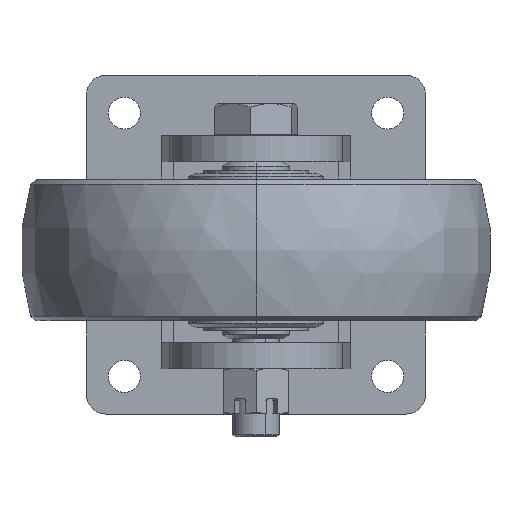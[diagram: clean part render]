
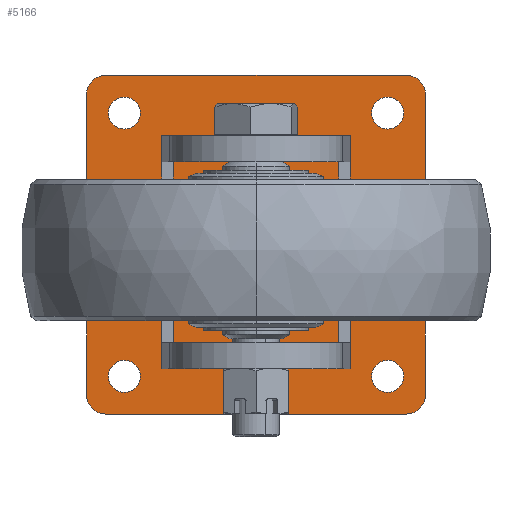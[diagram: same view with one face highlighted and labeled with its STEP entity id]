
A CAD part, front view. The second image highlights one B-rep face of the part: STEP entity #5166.
In plain terms, the highlighted planar face has unit normal (0, -1, 0).
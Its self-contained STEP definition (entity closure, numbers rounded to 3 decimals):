
#7 = CIRCLE ( 'NONE', #10394, 8.5 ) ;
#21 = ORIENTED_EDGE ( 'NONE', *, *, #3059, .F. ) ;
#60 = AXIS2_PLACEMENT_3D ( 'NONE', #9132, #3568, #4265 ) ;
#179 = ORIENTED_EDGE ( 'NONE', *, *, #2846, .T. ) ;
#214 = CARTESIAN_POINT ( 'NONE',  ( -83.735, 3.735, -90. ) ) ;
#273 = DIRECTION ( 'NONE',  ( 0., 1., 0. ) ) ;
#353 = DIRECTION ( 'NONE',  ( 0., 0., -1. ) ) ;
#501 = CARTESIAN_POINT ( 'NONE',  ( -83.735, 3.735, 90. ) ) ;
#569 = VERTEX_POINT ( 'NONE', #3986 ) ;
#652 = CIRCLE ( 'NONE', #2166, 8.5 ) ;
#686 = EDGE_CURVE ( 'NONE', #3217, #8067, #8387, .T. ) ;
#708 = EDGE_CURVE ( 'NONE', #3717, #4738, #8011, .T. ) ;
#725 = FACE_OUTER_BOUND ( 'NONE', #2631, .T. ) ;
#742 = VERTEX_POINT ( 'NONE', #6056 ) ;
#853 = CIRCLE ( 'NONE', #4653, 8.5 ) ;
#927 = DIRECTION ( 'NONE',  ( 0., -1., 0. ) ) ;
#953 = ORIENTED_EDGE ( 'NONE', *, *, #2260, .T. ) ;
#1027 = VERTEX_POINT ( 'NONE', #9072 ) ;
#1172 = CARTESIAN_POINT ( 'NONE',  ( -73.735, 3.735, -80. ) ) ;
#1339 = EDGE_LOOP ( 'NONE', ( #5240, #179 ) ) ;
#1370 = CARTESIAN_POINT ( 'NONE',  ( -73.735, 3.735, 90. ) ) ;
#1483 = ORIENTED_EDGE ( 'NONE', *, *, #686, .T. ) ;
#1666 = CARTESIAN_POINT ( 'NONE',  ( -63.735, 3.735, 70. ) ) ;
#1886 = EDGE_CURVE ( 'NONE', #3717, #7937, #8359, .T. ) ;
#1916 = DIRECTION ( 'NONE',  ( 0., 1., 0. ) ) ;
#1951 = CARTESIAN_POINT ( 'NONE',  ( 76.265, 3.735, -70. ) ) ;
#1958 = CARTESIAN_POINT ( 'NONE',  ( 76.265, 3.735, 70. ) ) ;
#2049 = ORIENTED_EDGE ( 'NONE', *, *, #708, .F. ) ;
#2166 = AXIS2_PLACEMENT_3D ( 'NONE', #3052, #3811, #9499 ) ;
#2260 = EDGE_CURVE ( 'NONE', #5914, #9068, #652, .T. ) ;
#2351 = CARTESIAN_POINT ( 'NONE',  ( -63.735, 3.735, 78.5 ) ) ;
#2380 = CIRCLE ( 'NONE', #6913, 8.5 ) ;
#2505 = EDGE_CURVE ( 'NONE', #8838, #7651, #4962, .T. ) ;
#2631 = EDGE_LOOP ( 'NONE', ( #7366, #9651, #6694, #5287, #5378, #2049, #8913, #21 ) ) ;
#2640 = CIRCLE ( 'NONE', #4073, 8.5 ) ;
#2690 = DIRECTION ( 'NONE',  ( 1., 0., 0. ) ) ;
#2720 = VERTEX_POINT ( 'NONE', #5730 ) ;
#2740 = CIRCLE ( 'NONE', #4211, 8.5 ) ;
#2846 = EDGE_CURVE ( 'NONE', #9189, #742, #2640, .T. ) ;
#3052 = CARTESIAN_POINT ( 'NONE',  ( 76.265, 3.735, -70. ) ) ;
#3059 = EDGE_CURVE ( 'NONE', #9408, #7937, #5965, .T. ) ;
#3060 = VECTOR ( 'NONE', #2690, 1000. ) ;
#3168 = CARTESIAN_POINT ( 'NONE',  ( 96.265, 3.735, -80. ) ) ;
#3181 = LINE ( 'NONE', #5291, #4326 ) ;
#3217 = VERTEX_POINT ( 'NONE', #4620 ) ;
#3361 = DIRECTION ( 'NONE',  ( 0., 1., 0. ) ) ;
#3488 = DIRECTION ( 'NONE',  ( 0., 0., -1. ) ) ;
#3530 = DIRECTION ( 'NONE',  ( 0., 0., -1. ) ) ;
#3568 = DIRECTION ( 'NONE',  ( 0., 1., 0. ) ) ;
#3577 = CARTESIAN_POINT ( 'NONE',  ( 96.265, 3.735, 90. ) ) ;
#3600 = DIRECTION ( 'NONE',  ( 0., 1., 0. ) ) ;
#3637 = AXIS2_PLACEMENT_3D ( 'NONE', #1958, #3600, #353 ) ;
#3688 = AXIS2_PLACEMENT_3D ( 'NONE', #1172, #7664, #6859 ) ;
#3717 = VERTEX_POINT ( 'NONE', #3787 ) ;
#3787 = CARTESIAN_POINT ( 'NONE',  ( 86.265, 3.735, 90. ) ) ;
#3811 = DIRECTION ( 'NONE',  ( 0., 1., 0. ) ) ;
#3882 = DIRECTION ( 'NONE',  ( 0., 0., -1. ) ) ;
#3888 = CIRCLE ( 'NONE', #5604, 8.5 ) ;
#3986 = CARTESIAN_POINT ( 'NONE',  ( -83.735, 3.735, -80. ) ) ;
#3989 = DIRECTION ( 'NONE',  ( 0., 0., -1. ) ) ;
#4037 = CARTESIAN_POINT ( 'NONE',  ( 76.265, 3.735, -78.5 ) ) ;
#4073 = AXIS2_PLACEMENT_3D ( 'NONE', #8251, #3361, #6690 ) ;
#4081 = EDGE_CURVE ( 'NONE', #5606, #1027, #2740, .T. ) ;
#4211 = AXIS2_PLACEMENT_3D ( 'NONE', #1666, #8868, #3989 ) ;
#4265 = DIRECTION ( 'NONE',  ( 0., 0., -1. ) ) ;
#4326 = VECTOR ( 'NONE', #5218, 1000. ) ;
#4509 = ORIENTED_EDGE ( 'NONE', *, *, #4081, .T. ) ;
#4516 = EDGE_CURVE ( 'NONE', #8067, #3217, #3888, .T. ) ;
#4620 = CARTESIAN_POINT ( 'NONE',  ( 76.265, 3.735, 61.5 ) ) ;
#4653 = AXIS2_PLACEMENT_3D ( 'NONE', #1951, #8519, #10167 ) ;
#4685 = CARTESIAN_POINT ( 'NONE',  ( -63.735, 3.735, 70. ) ) ;
#4732 = DIRECTION ( 'NONE',  ( 0., 0., -1. ) ) ;
#4738 = VERTEX_POINT ( 'NONE', #5074 ) ;
#4814 = CARTESIAN_POINT ( 'NONE',  ( -63.735, 3.735, -70. ) ) ;
#4898 = EDGE_CURVE ( 'NONE', #9068, #5914, #853, .T. ) ;
#4962 = CIRCLE ( 'NONE', #60, 10. ) ;
#4981 = LINE ( 'NONE', #214, #3060 ) ;
#5031 = FACE_BOUND ( 'NONE', #9893, .T. ) ;
#5074 = CARTESIAN_POINT ( 'NONE',  ( 96.265, 3.735, 80. ) ) ;
#5166 = ADVANCED_FACE ( 'NONE', ( #725, #7577, #8725, #5031, #7457 ), #5954, .T. ) ;
#5218 = DIRECTION ( 'NONE',  ( 0., 0., -1. ) ) ;
#5240 = ORIENTED_EDGE ( 'NONE', *, *, #8778, .T. ) ;
#5287 = ORIENTED_EDGE ( 'NONE', *, *, #2505, .F. ) ;
#5291 = CARTESIAN_POINT ( 'NONE',  ( -83.735, 3.735, 90. ) ) ;
#5378 = ORIENTED_EDGE ( 'NONE', *, *, #10085, .T. ) ;
#5495 = DIRECTION ( 'NONE',  ( 0., 1., 0. ) ) ;
#5604 = AXIS2_PLACEMENT_3D ( 'NONE', #8717, #9525, #4732 ) ;
#5606 = VERTEX_POINT ( 'NONE', #2351 ) ;
#5730 = CARTESIAN_POINT ( 'NONE',  ( -73.735, 3.735, -90. ) ) ;
#5914 = VERTEX_POINT ( 'NONE', #8423 ) ;
#5954 = PLANE ( 'NONE',  #8121 ) ;
#5963 = DIRECTION ( 'NONE',  ( 0., 0., 1. ) ) ;
#5965 = CIRCLE ( 'NONE', #6067, 10. ) ;
#6021 = CARTESIAN_POINT ( 'NONE',  ( 86.265, 3.735, 80. ) ) ;
#6056 = CARTESIAN_POINT ( 'NONE',  ( -63.735, 3.735, -78.5 ) ) ;
#6067 = AXIS2_PLACEMENT_3D ( 'NONE', #6857, #1916, #3488 ) ;
#6401 = CARTESIAN_POINT ( 'NONE',  ( -63.735, 3.735, -61.5 ) ) ;
#6690 = DIRECTION ( 'NONE',  ( 0., 0., -1. ) ) ;
#6694 = ORIENTED_EDGE ( 'NONE', *, *, #7863, .T. ) ;
#6772 = CIRCLE ( 'NONE', #3688, 10. ) ;
#6857 = CARTESIAN_POINT ( 'NONE',  ( -73.735, 3.735, 80. ) ) ;
#6859 = DIRECTION ( 'NONE',  ( 0., 0., -1. ) ) ;
#6913 = AXIS2_PLACEMENT_3D ( 'NONE', #4685, #5495, #3882 ) ;
#7353 = LINE ( 'NONE', #3577, #9121 ) ;
#7366 = ORIENTED_EDGE ( 'NONE', *, *, #8949, .T. ) ;
#7457 = FACE_BOUND ( 'NONE', #9114, .T. ) ;
#7577 = FACE_BOUND ( 'NONE', #1339, .T. ) ;
#7651 = VERTEX_POINT ( 'NONE', #8022 ) ;
#7664 = DIRECTION ( 'NONE',  ( 0., 1., 0. ) ) ;
#7711 = VECTOR ( 'NONE', #8642, 1000. ) ;
#7863 = EDGE_CURVE ( 'NONE', #2720, #7651, #4981, .T. ) ;
#7937 = VERTEX_POINT ( 'NONE', #1370 ) ;
#8011 = CIRCLE ( 'NONE', #10477, 10. ) ;
#8022 = CARTESIAN_POINT ( 'NONE',  ( 86.265, 3.735, -90. ) ) ;
#8055 = DIRECTION ( 'NONE',  ( 0., 1., 0. ) ) ;
#8067 = VERTEX_POINT ( 'NONE', #9920 ) ;
#8121 = AXIS2_PLACEMENT_3D ( 'NONE', #8367, #927, #9161 ) ;
#8251 = CARTESIAN_POINT ( 'NONE',  ( -63.735, 3.735, -70. ) ) ;
#8276 = EDGE_CURVE ( 'NONE', #2720, #569, #6772, .T. ) ;
#8359 = LINE ( 'NONE', #501, #7711 ) ;
#8367 = CARTESIAN_POINT ( 'NONE',  ( 6.265, 3.735, 0. ) ) ;
#8387 = CIRCLE ( 'NONE', #3637, 8.5 ) ;
#8423 = CARTESIAN_POINT ( 'NONE',  ( 76.265, 3.735, -61.5 ) ) ;
#8519 = DIRECTION ( 'NONE',  ( 0., 1., 0. ) ) ;
#8523 = ORIENTED_EDGE ( 'NONE', *, *, #4516, .T. ) ;
#8642 = DIRECTION ( 'NONE',  ( -1., 0., 0. ) ) ;
#8717 = CARTESIAN_POINT ( 'NONE',  ( 76.265, 3.735, 70. ) ) ;
#8725 = FACE_BOUND ( 'NONE', #9343, .T. ) ;
#8778 = EDGE_CURVE ( 'NONE', #742, #9189, #7, .T. ) ;
#8781 = ORIENTED_EDGE ( 'NONE', *, *, #4898, .T. ) ;
#8838 = VERTEX_POINT ( 'NONE', #3168 ) ;
#8868 = DIRECTION ( 'NONE',  ( 0., 1., 0. ) ) ;
#8913 = ORIENTED_EDGE ( 'NONE', *, *, #1886, .T. ) ;
#8949 = EDGE_CURVE ( 'NONE', #9408, #569, #3181, .T. ) ;
#9068 = VERTEX_POINT ( 'NONE', #4037 ) ;
#9069 = ORIENTED_EDGE ( 'NONE', *, *, #9177, .T. ) ;
#9072 = CARTESIAN_POINT ( 'NONE',  ( -63.735, 3.735, 61.5 ) ) ;
#9114 = EDGE_LOOP ( 'NONE', ( #8781, #953 ) ) ;
#9121 = VECTOR ( 'NONE', #5963, 1000. ) ;
#9132 = CARTESIAN_POINT ( 'NONE',  ( 86.265, 3.735, -80. ) ) ;
#9161 = DIRECTION ( 'NONE',  ( 0., 0., -1. ) ) ;
#9177 = EDGE_CURVE ( 'NONE', #1027, #5606, #2380, .T. ) ;
#9189 = VERTEX_POINT ( 'NONE', #6401 ) ;
#9343 = EDGE_LOOP ( 'NONE', ( #9069, #4509 ) ) ;
#9408 = VERTEX_POINT ( 'NONE', #9932 ) ;
#9499 = DIRECTION ( 'NONE',  ( 0., 0., -1. ) ) ;
#9525 = DIRECTION ( 'NONE',  ( 0., 1., 0. ) ) ;
#9651 = ORIENTED_EDGE ( 'NONE', *, *, #8276, .F. ) ;
#9893 = EDGE_LOOP ( 'NONE', ( #1483, #8523 ) ) ;
#9920 = CARTESIAN_POINT ( 'NONE',  ( 76.265, 3.735, 78.5 ) ) ;
#9932 = CARTESIAN_POINT ( 'NONE',  ( -83.735, 3.735, 80. ) ) ;
#10085 = EDGE_CURVE ( 'NONE', #8838, #4738, #7353, .T. ) ;
#10167 = DIRECTION ( 'NONE',  ( 0., 0., -1. ) ) ;
#10394 = AXIS2_PLACEMENT_3D ( 'NONE', #4814, #8055, #10556 ) ;
#10477 = AXIS2_PLACEMENT_3D ( 'NONE', #6021, #273, #3530 ) ;
#10556 = DIRECTION ( 'NONE',  ( 0., 0., -1. ) ) ;
